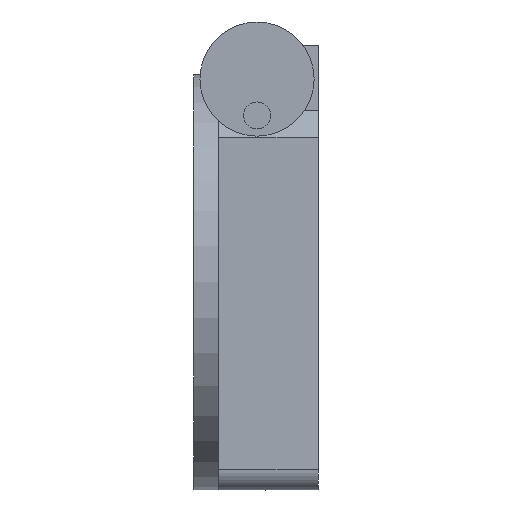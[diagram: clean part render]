
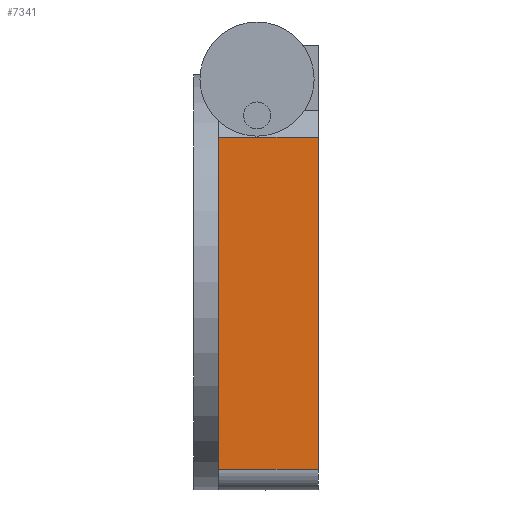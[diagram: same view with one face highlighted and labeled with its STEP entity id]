
A CAD part, left-side view. The second image highlights one B-rep face of the part: STEP entity #7341.
In plain terms, the highlighted planar face has unit normal (-1, 0, 0).
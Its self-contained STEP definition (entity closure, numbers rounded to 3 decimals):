
#54 = VECTOR ( 'NONE', #1374, 1000. ) ;
#170 = VERTEX_POINT ( 'NONE', #3000 ) ;
#632 = DIRECTION ( 'NONE',  ( 1., 0., 0. ) ) ;
#770 = VECTOR ( 'NONE', #995, 1000. ) ;
#995 = DIRECTION ( 'NONE',  ( 0., 0., 1. ) ) ;
#1086 = CARTESIAN_POINT ( 'NONE',  ( -100., 0., 70. ) ) ;
#1180 = ORIENTED_EDGE ( 'NONE', *, *, #9745, .F. ) ;
#1374 = DIRECTION ( 'NONE',  ( 0., 1., 0. ) ) ;
#1664 = FACE_OUTER_BOUND ( 'NONE', #12185, .T. ) ;
#3000 = CARTESIAN_POINT ( 'NONE',  ( -100., 48., 70. ) ) ;
#3020 = DIRECTION ( 'NONE',  ( 0., 0., 1. ) ) ;
#3395 = VERTEX_POINT ( 'NONE', #11194 ) ;
#3749 = DIRECTION ( 'NONE',  ( 0., 1., 0. ) ) ;
#4078 = PLANE ( 'NONE',  #9872 ) ;
#4099 = VERTEX_POINT ( 'NONE', #8416 ) ;
#4141 = EDGE_CURVE ( 'NONE', #10920, #170, #9583, .T. ) ;
#4367 = ORIENTED_EDGE ( 'NONE', *, *, #8145, .T. ) ;
#4999 = CARTESIAN_POINT ( 'NONE',  ( -100., 0., 0. ) ) ;
#5617 = LINE ( 'NONE', #12450, #5687 ) ;
#5687 = VECTOR ( 'NONE', #6795, 1000. ) ;
#5689 = LINE ( 'NONE', #11407, #54 ) ;
#6135 = VECTOR ( 'NONE', #3020, 1000. ) ;
#6253 = DIRECTION ( 'NONE',  ( 0., 0., -1. ) ) ;
#6795 = DIRECTION ( 'NONE',  ( 0., 0., 1. ) ) ;
#6936 = ORIENTED_EDGE ( 'NONE', *, *, #4141, .T. ) ;
#7341 = ADVANCED_FACE ( 'NONE', ( #1664 ), #4078, .F. ) ;
#7518 = EDGE_CURVE ( 'NONE', #12129, #4099, #7862, .T. ) ;
#7862 = LINE ( 'NONE', #9846, #770 ) ;
#8145 = EDGE_CURVE ( 'NONE', #3395, #10920, #14027, .T. ) ;
#8416 = CARTESIAN_POINT ( 'NONE',  ( -100., 48., 0. ) ) ;
#8871 = EDGE_CURVE ( 'NONE', #4099, #170, #5617, .T. ) ;
#9575 = VECTOR ( 'NONE', #3749, 1000. ) ;
#9583 = LINE ( 'NONE', #14099, #9575 ) ;
#9745 = EDGE_CURVE ( 'NONE', #3395, #12129, #5689, .T. ) ;
#9846 = CARTESIAN_POINT ( 'NONE',  ( -100., 48., -70. ) ) ;
#9872 = AXIS2_PLACEMENT_3D ( 'NONE', #10663, #632, #6253 ) ;
#9906 = ORIENTED_EDGE ( 'NONE', *, *, #8871, .F. ) ;
#10663 = CARTESIAN_POINT ( 'NONE',  ( -100., 48., -70. ) ) ;
#10920 = VERTEX_POINT ( 'NONE', #1086 ) ;
#11194 = CARTESIAN_POINT ( 'NONE',  ( -100., 0., -90. ) ) ;
#11407 = CARTESIAN_POINT ( 'NONE',  ( -100., 48., -90. ) ) ;
#11447 = ORIENTED_EDGE ( 'NONE', *, *, #7518, .F. ) ;
#12129 = VERTEX_POINT ( 'NONE', #12688 ) ;
#12185 = EDGE_LOOP ( 'NONE', ( #6936, #9906, #11447, #1180, #4367 ) ) ;
#12450 = CARTESIAN_POINT ( 'NONE',  ( -100., 48., -70. ) ) ;
#12688 = CARTESIAN_POINT ( 'NONE',  ( -100., 48., -90. ) ) ;
#14027 = LINE ( 'NONE', #4999, #6135 ) ;
#14099 = CARTESIAN_POINT ( 'NONE',  ( -100., 48., 70. ) ) ;
